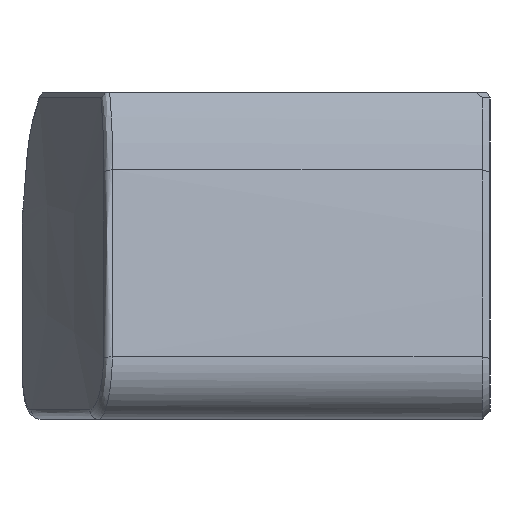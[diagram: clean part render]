
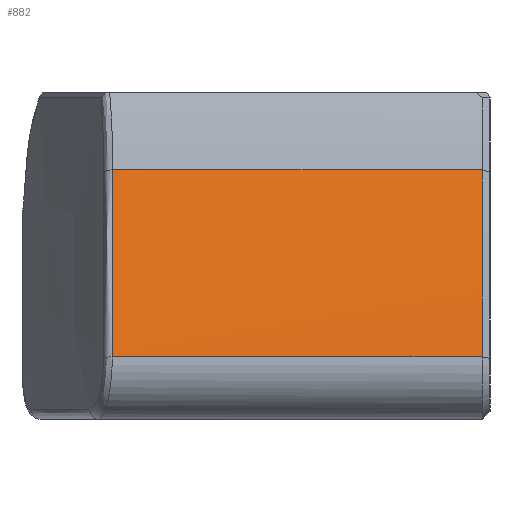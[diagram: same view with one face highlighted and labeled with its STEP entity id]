
A CAD part, left-side view. The second image highlights one B-rep face of the part: STEP entity #882.
In plain terms, the highlighted cylindrical face has radius 128 mm (diameter 256 mm), a partial arc.
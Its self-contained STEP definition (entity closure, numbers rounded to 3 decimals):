
#41 = ORIENTED_EDGE ( 'NONE', *, *, #955, .T. ) ;
#42 = ORIENTED_EDGE ( 'NONE', *, *, #954, .T. ) ;
#43 = ORIENTED_EDGE ( 'NONE', *, *, #956, .T. ) ;
#44 = ORIENTED_EDGE ( 'NONE', *, *, #953, .T. ) ;
#220 = CARTESIAN_POINT ( 'NONE',  ( 0., -5., 0. ) ) ;
#221 = DIRECTION ( 'NONE',  ( 0., 1., 0. ) ) ;
#222 = DIRECTION ( 'NONE',  ( 0., 0., 1. ) ) ;
#553 = CIRCLE ( 'NONE', #1348, 128. ) ;
#882 = ADVANCED_FACE ( 'NONE', ( #2872 ), #2883, .T. ) ;
#953 = EDGE_CURVE ( 'NONE', #4486, #4483, #553, .T. ) ;
#954 = EDGE_CURVE ( 'NONE', #4485, #4486, #2654, .T. ) ;
#955 = EDGE_CURVE ( 'NONE', #4483, #4484, #2657, .T. ) ;
#956 = EDGE_CURVE ( 'NONE', #4484, #4485, #1638, .T. ) ;
#1348 = AXIS2_PLACEMENT_3D ( 'NONE', #2650, #2651, #2652 ) ;
#1352 = VECTOR ( 'NONE', #2656, 1000. ) ;
#1353 = VECTOR ( 'NONE', #2659, 1000. ) ;
#1638 = B_SPLINE_CURVE_WITH_KNOTS ( 'NONE', 3,
 ( #2653, #2660, #2661, #2662 ),
 .UNSPECIFIED., .F., .F.,
 ( 4, 4 ),
 ( 0., 0.015 ),
 .UNSPECIFIED. ) ;
#2650 = CARTESIAN_POINT ( 'NONE',  ( 0., -4.4, 0. ) ) ;
#2651 = DIRECTION ( 'NONE',  ( 0., 1., 0. ) ) ;
#2652 = DIRECTION ( 'NONE',  ( 0., 0., 1. ) ) ;
#2653 = CARTESIAN_POINT ( 'NONE',  ( -121.883, 23.884, 39.095 ) ) ;
#2654 = LINE ( 'NONE', #2655, #1352 ) ;
#2655 = CARTESIAN_POINT ( 'NONE',  ( -125.58, -5., 24.774 ) ) ;
#2656 = DIRECTION ( 'NONE',  ( 0., -1., 0. ) ) ;
#2657 = LINE ( 'NONE', #2658, #1353 ) ;
#2658 = CARTESIAN_POINT ( 'NONE',  ( -121.883, -5., 39.095 ) ) ;
#2659 = DIRECTION ( 'NONE',  ( 0., 1., 0. ) ) ;
#2660 = CARTESIAN_POINT ( 'NONE',  ( -123.392, 23.888, 34.393 ) ) ;
#2661 = CARTESIAN_POINT ( 'NONE',  ( -124.624, 23.903, 29.619 ) ) ;
#2662 = CARTESIAN_POINT ( 'NONE',  ( -125.58, 23.927, 24.774 ) ) ;
#2872 = FACE_OUTER_BOUND ( 'NONE', #3981, .T. ) ;
#2882 = AXIS2_PLACEMENT_3D ( 'NONE', #220, #221, #222 ) ;
#2883 = CYLINDRICAL_SURFACE ( 'NONE', #2882, 128. ) ;
#3981 = EDGE_LOOP ( 'NONE', ( #41, #43, #42, #44 ) ) ;
#4483 = VERTEX_POINT ( 'NONE', #4956 ) ;
#4484 = VERTEX_POINT ( 'NONE', #4957 ) ;
#4485 = VERTEX_POINT ( 'NONE', #4958 ) ;
#4486 = VERTEX_POINT ( 'NONE', #4959 ) ;
#4956 = CARTESIAN_POINT ( 'NONE',  ( -121.883, -4.4, 39.095 ) ) ;
#4957 = CARTESIAN_POINT ( 'NONE',  ( -121.883, 23.884, 39.095 ) ) ;
#4958 = CARTESIAN_POINT ( 'NONE',  ( -125.58, 23.927, 24.774 ) ) ;
#4959 = CARTESIAN_POINT ( 'NONE',  ( -125.58, -4.4, 24.774 ) ) ;
